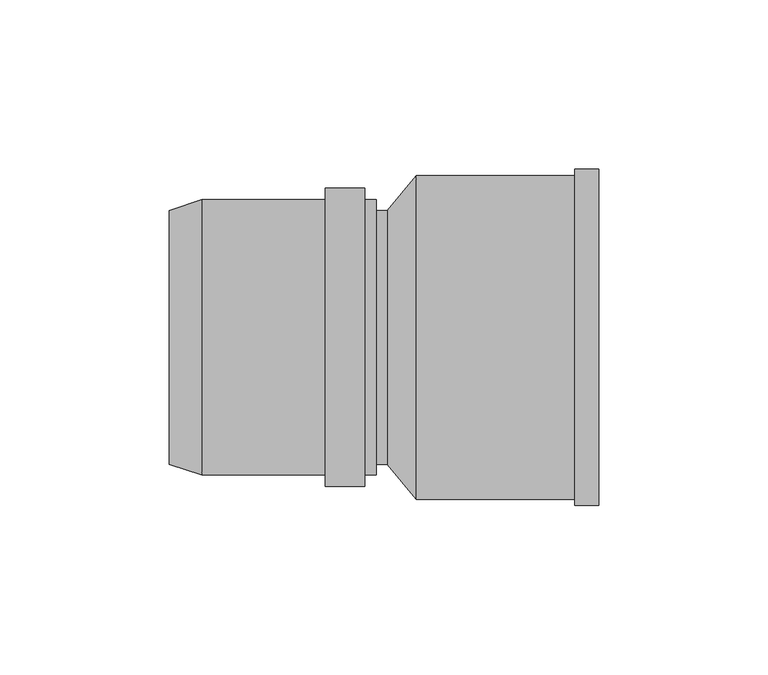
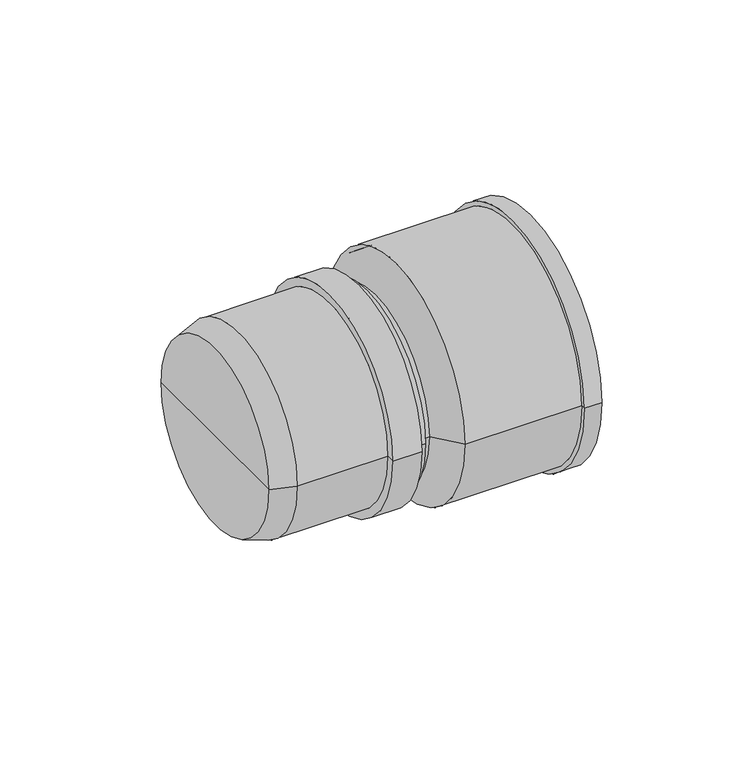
"""IFC4 building model written with IfcOpenShell, lengths in millimetres: pipe fitting geometry, pf_HTUG : pf_HTUG."""

from ifc_helpers import new_model, si_unit, point, frame, origin, origin_2d, place, context, project, spatial, polyline, circle_curve, trimmed, segment, composite_curve, outline, extrude, source, transform, mapped, element, save
from ifc_brep_helpers import plane_surface, cylinder_surface, revolved_surface, advanced_brep


def pipe_fitting_6399dcb3(model_context):
    return source(origin(), model_context, "Body", "SolidModel", [
        advanced_brep(
        [(-64.3, -37.5, 0.0), (-64.3, 37.5, 0.0), (-54.8, 40.6, 0.0), (-54.8, -40.6, 0.0), (-64.3, 0.0, 0.0), (-3.3, -40.6, 0.0), (-3.3, 40.6, 0.0), (-3.3, 37.5, 0.0), (-3.3, -37.5, 0.0), (-6.7, -40.6, 0.0), (-6.7, 40.6, 0.0), (-6.7, -44.0, 0.0), (-6.7, 44.0, 0.0), (-18.3, -44.0, 0.0), (-18.3, 44.0, 0.0), (-18.3, -40.6, 0.0), (-18.3, 40.6, 0.0), (-54.8, -37.5, 0.0), (-54.8, 37.5, 0.0), (-54.8, 0.0, 0.0)],
        [
            (0, 1, circle_curve(frame((-64.3, 0.0, 0.0), z_axis=(1.0, 0.0, 0.0), x_axis=(0.0, 1.0, 0.0)), 37.5)),
            (1, 2),
            (2, 3, circle_curve(frame((-54.8, 0.0, 0.0), z_axis=(-1.0, 0.0, 0.0), x_axis=(0.0, 1.0, 0.0)), 40.6)),
            (3, 0),
            (1, 0, circle_curve(frame((-64.3, 0.0, 0.0), z_axis=(1.0, 0.0, 0.0), x_axis=(0.0, 1.0, 0.0)), 37.5)),
            (3, 2, circle_curve(frame((-54.8, 0.0, 0.0), z_axis=(-1.0, 0.0, 0.0), x_axis=(0.0, 1.0, 0.0)), 40.6)),
            (4, 1),
            (0, 4),
            (5, 6, circle_curve(frame((-3.3, 0.0, 0.0), z_axis=(1.0, 0.0, 0.0), x_axis=(0.0, 1.0, 0.0)), 40.6)),
            (6, 7),
            (7, 8, circle_curve(frame((-3.3, 0.0, 0.0), z_axis=(-1.0, 0.0, 0.0), x_axis=(0.0, 1.0, 0.0)), 37.5)),
            (8, 5),
            (6, 5, circle_curve(frame((-3.3, 0.0, 0.0), z_axis=(1.0, 0.0, 0.0), x_axis=(0.0, 1.0, 0.0)), 40.6)),
            (8, 7, circle_curve(frame((-3.3, 0.0, 0.0), z_axis=(-1.0, 0.0, 0.0), x_axis=(0.0, 1.0, 0.0)), 37.5)),
            (9, 10, circle_curve(frame((-6.7, 0.0, 0.0), z_axis=(1.0, 0.0, 0.0), x_axis=(0.0, 1.0, 0.0)), 40.6)),
            (10, 6),
            (5, 9),
            (10, 9, circle_curve(frame((-6.7, 0.0, 0.0), z_axis=(1.0, 0.0, 0.0), x_axis=(0.0, 1.0, 0.0)), 40.6)),
            (11, 12, circle_curve(frame((-6.7, 0.0, 0.0), z_axis=(1.0, 0.0, 0.0), x_axis=(0.0, 1.0, 0.0)), 44.0)),
            (12, 10),
            (9, 11),
            (12, 11, circle_curve(frame((-6.7, 0.0, 0.0), z_axis=(1.0, 0.0, 0.0), x_axis=(0.0, 1.0, 0.0)), 44.0)),
            (13, 14, circle_curve(frame((-18.3, 0.0, 0.0), z_axis=(1.0, 0.0, 0.0), x_axis=(0.0, 1.0, 0.0)), 44.0)),
            (14, 12),
            (11, 13),
            (14, 13, circle_curve(frame((-18.3, 0.0, 0.0), z_axis=(1.0, 0.0, 0.0), x_axis=(0.0, 1.0, 0.0)), 44.0)),
            (15, 16, circle_curve(frame((-18.3, 0.0, 0.0), z_axis=(1.0, 0.0, 0.0), x_axis=(0.0, 1.0, 0.0)), 40.6)),
            (16, 14),
            (13, 15),
            (16, 15, circle_curve(frame((-18.3, 0.0, 0.0), z_axis=(1.0, 0.0, 0.0), x_axis=(0.0, 1.0, 0.0)), 40.6)),
            (2, 16),
            (15, 3),
            (17, 18, circle_curve(frame((-54.8, 0.0, 0.0), z_axis=(1.0, 0.0, 0.0), x_axis=(0.0, 1.0, 0.0)), 37.5)),
            (18, 19),
            (19, 17),
            (18, 17, circle_curve(frame((-54.8, 0.0, 0.0), z_axis=(1.0, 0.0, 0.0), x_axis=(0.0, 1.0, 0.0)), 37.5)),
            (7, 18),
            (17, 8),
        ],
        [
            revolved_surface(polyline([(-54.8, 40.6, 0.0), (-64.3, 37.5, 0.0)]), (-64.3, 0.0, 0.0), (-1.0, 0.0, 0.0)),
            plane_surface(frame((-64.3, 0.0, 0.0), z_axis=(-1.0, 0.0, 0.0), x_axis=(0.0, 1.0, 0.0))),
            plane_surface(frame((-3.3, 0.0, 0.0), z_axis=(1.0, 0.0, 0.0), x_axis=(0.0, 1.0, 0.0))),
            cylinder_surface(frame((-64.3, 0.0, 0.0), z_axis=(-1.0, 0.0, 0.0), x_axis=(0.0, 1.0, 0.0)), 40.6),
            plane_surface(frame((-6.7, 0.0, 0.0), z_axis=(1.0, 0.0, 0.0), x_axis=(0.0, 1.0, 0.0))),
            cylinder_surface(frame((-64.3, 0.0, 0.0), z_axis=(-1.0, 0.0, 0.0), x_axis=(0.0, 1.0, 0.0)), 44.0),
            plane_surface(frame((-18.3, 0.0, 0.0), z_axis=(-1.0, 0.0, 0.0), x_axis=(0.0, 1.0, 0.0))),
            plane_surface(frame((-54.8, 0.0, 0.0), z_axis=(1.0, 0.0, 0.0), x_axis=(0.0, 1.0, 0.0))),
            revolved_surface(polyline([(-54.8, 37.5, 0.0), (-3.299999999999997, 37.5, 0.0)]), (-64.3, 0.0, 0.0), (-1.0, 0.0, 0.0)),
        ],
        [
            (0, [[1, 2, 3, 4]]),
            (0, [[5, -4, 6, -2]]),
            (1, [[7, -1, 8]]),
            (1, [[-8, -5, -7]]),
            (2, [[9, 10, 11, 12]]),
            (2, [[13, -12, 14, -10]]),
            (3, [[15, 16, -9, 17]]),
            (3, [[18, -17, -13, -16]]),
            (4, [[19, 20, -15, 21]]),
            (4, [[22, -21, -18, -20]]),
            (5, [[23, 24, -19, 25]]),
            (5, [[26, -25, -22, -24]]),
            (6, [[27, 28, -23, 29]]),
            (6, [[30, -29, -26, -28]]),
            (3, [[-3, 31, -27, 32]]),
            (3, [[-6, -32, -30, -31]]),
            (7, [[33, 34, 35]]),
            (7, [[36, -35, -34]]),
            (8, [[-11, 37, -33, 38]]),
            (8, [[-14, -38, -36, -37]]),
        ],
    ),
        extrude(outline(composite_curve([segment(trimmed(circle_curve(origin_2d(), 37.5), [point((-37.5, 0.0))], [point((37.5, 0.0))], False, "CARTESIAN"), True, "CONTINUOUS"), segment(trimmed(circle_curve(origin_2d(), 37.5), [point((37.5, 0.0))], [point((-37.5, 0.0))], False, "CARTESIAN"), True, "CONTINUOUS")], self_intersect=False)), frame((-3.3, 0.0, 0.0), z_axis=(1.0, 0.0, 0.0), x_axis=(0.0, 1.0, 0.0)), (0.0, 0.0, 1.0), 3.3),
        advanced_brep(
        [(62.3, -46.0, 0.0), (62.3, 46.0, 0.0), (8.5, 46.0, 0.0), (8.5, -46.0, 0.0), (62.3, -49.6, 0.0), (62.3, 49.6, 0.0), (8.5, -47.8, 0.0), (8.5, 47.8, 0.0), (55.3184027, 47.8, 0.0), (55.3184027, -47.8, 0.0), (0.0, -37.5, 0.0), (0.0, 37.5, 0.0), (0.0, 0.0, 0.0), (55.3184027, 49.6, 0.0), (55.3184027, -49.6, 0.0), (8.5, 0.0, 0.0)],
        [
            (0, 1, circle_curve(frame((62.3, 0.0, 0.0), z_axis=(1.0, 0.0, 0.0), x_axis=(0.0, 1.0, 0.0)), 46.0)),
            (1, 2),
            (2, 3, circle_curve(frame((8.5, 0.0, 0.0), z_axis=(-1.0, 0.0, 0.0), x_axis=(0.0, 1.0, 0.0)), 46.0)),
            (3, 0),
            (4, 5, circle_curve(frame((62.3, 0.0, 0.0), z_axis=(1.0, 0.0, 0.0), x_axis=(0.0, 1.0, 0.0)), 49.6)),
            (5, 1),
            (0, 4),
            (6, 7, circle_curve(frame((8.5, 0.0, 0.0), z_axis=(1.0, 0.0, 0.0), x_axis=(0.0, 1.0, 0.0)), 47.8)),
            (7, 8),
            (8, 9, circle_curve(frame((55.3184027, 0.0, 0.0), z_axis=(-1.0, 0.0, 0.0), x_axis=(0.0, 1.0, 0.0)), 47.8)),
            (9, 6),
            (10, 11, circle_curve(frame((0.0, 0.0, 0.0), z_axis=(1.0, 0.0, 0.0), x_axis=(0.0, 1.0, 0.0)), 37.5)),
            (11, 7),
            (6, 10),
            (12, 11),
            (10, 12),
            (8, 13),
            (13, 14, circle_curve(frame((55.3184027, 0.0, 0.0), z_axis=(-1.0, 0.0, 0.0), x_axis=(0.0, 1.0, 0.0)), 49.6)),
            (14, 9),
            (1, 0, circle_curve(frame((62.3, 0.0, 0.0), z_axis=(1.0, 0.0, 0.0), x_axis=(0.0, 1.0, 0.0)), 46.0)),
            (3, 2, circle_curve(frame((8.5, 0.0, 0.0), z_axis=(-1.0, 0.0, 0.0), x_axis=(0.0, 1.0, 0.0)), 46.0)),
            (5, 4, circle_curve(frame((62.3, 0.0, 0.0), z_axis=(1.0, 0.0, 0.0), x_axis=(0.0, 1.0, 0.0)), 49.6)),
            (13, 5),
            (4, 14),
            (13, 14, circle_curve(frame((55.3184027, 0.0, 0.0), z_axis=(1.0, 0.0, 0.0), x_axis=(0.0, 1.0, 0.0)), 49.6)),
            (8, 9, circle_curve(frame((55.3184027, 0.0, 0.0), z_axis=(1.0, 0.0, 0.0), x_axis=(0.0, 1.0, 0.0)), 47.8)),
            (7, 6, circle_curve(frame((8.5, 0.0, 0.0), z_axis=(1.0, 0.0, 0.0), x_axis=(0.0, 1.0, 0.0)), 47.8)),
            (11, 10, circle_curve(frame((0.0, 0.0, 0.0), z_axis=(1.0, 0.0, 0.0), x_axis=(0.0, 1.0, 0.0)), 37.5)),
            (2, 15),
            (15, 3),
        ],
        [
            revolved_surface(polyline([(8.5, 46.0, 0.0), (62.3, 46.0, 0.0)]), (68.3, 0.0, 0.0), (-1.0, 0.0, 0.0)),
            plane_surface(frame((62.3, 0.0, 0.0), z_axis=(1.0, 0.0, 0.0), x_axis=(0.0, 1.0, 0.0))),
            cylinder_surface(frame((68.3, 0.0, 0.0), z_axis=(-1.0, 0.0, 0.0), x_axis=(0.0, 1.0, 0.0)), 47.8),
            revolved_surface(polyline([(8.5, 47.8, 0.0), (0.0, 37.5, 0.0)]), (68.3, 0.0, 0.0), (-1.0, 0.0, 0.0)),
            plane_surface(frame((0.0, 0.0, 0.0), z_axis=(-1.0, 0.0, 0.0), x_axis=(0.0, 1.0, 0.0))),
            plane_surface(frame((55.3184027, 0.0, 0.0), z_axis=(-1.0, 0.0, 0.0), x_axis=(0.0, 1.0, 0.0))),
            cylinder_surface(frame((68.3, 0.0, 0.0), z_axis=(-1.0, 0.0, 0.0), x_axis=(0.0, 1.0, 0.0)), 49.6),
            plane_surface(frame((8.5, 0.0, 0.0), z_axis=(1.0, 0.0, 0.0), x_axis=(0.0, 1.0, 0.0))),
        ],
        [
            (0, [[1, 2, 3, 4]]),
            (1, [[5, 6, -1, 7]]),
            (2, [[8, 9, 10, 11]]),
            (3, [[12, 13, -8, 14]]),
            (4, [[15, -12, 16]]),
            (5, [[-10, 17, 18, 19]]),
            (0, [[20, -4, 21, -2]]),
            (1, [[22, -7, -20, -6]]),
            (6, [[-18, 23, -5, 24]]),
            (6, [[25, -24, -22, -23]]),
            (5, [[26, -19, -25, -17]]),
            (2, [[27, -11, -26, -9]]),
            (3, [[28, -14, -27, -13]]),
            (4, [[-16, -28, -15]]),
            (7, [[-3, 29, 30]]),
            (7, [[-21, -30, -29]]),
        ],
    ),
    ])


if __name__ == "__main__":
    model = new_model("IFC4")
    model_context = context("Model", 3, world=origin())
    ifc_project = project(units=[si_unit("LENGTHUNIT", "METRE", prefix="MILLI")], contexts=[model_context])
    site = spatial("IfcSite", under=ifc_project)
    building = spatial("IfcBuilding", under=site)
    placement = place(None, origin())
    pipe_fitting_shape = pipe_fitting_6399dcb3(model_context)
    element("IfcPipeFitting", 1, ObjectType="pf_HTUG : pf_HTUG", at=placement, inside=building, context=model_context, shape_type="MappedRepresentation", body=[
        mapped(pipe_fitting_shape, transform((0.0, 0.0, 0.0), x_axis=(1.0, 0.0, 0.0), y_axis=(0.0, 1.0, 0.0), z_axis=(0.0, 0.0, 1.0))),
    ])
    save(model, "model.ifc")
